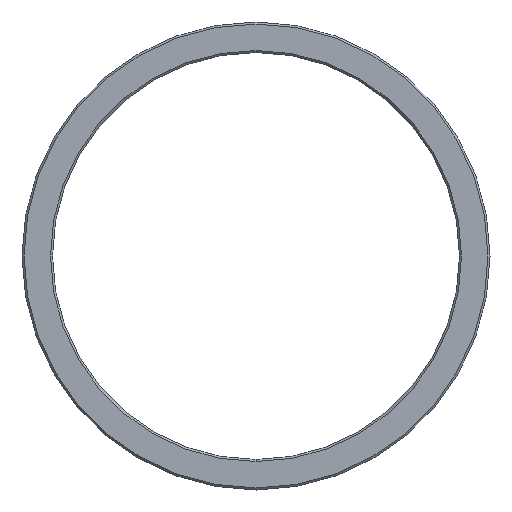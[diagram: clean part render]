
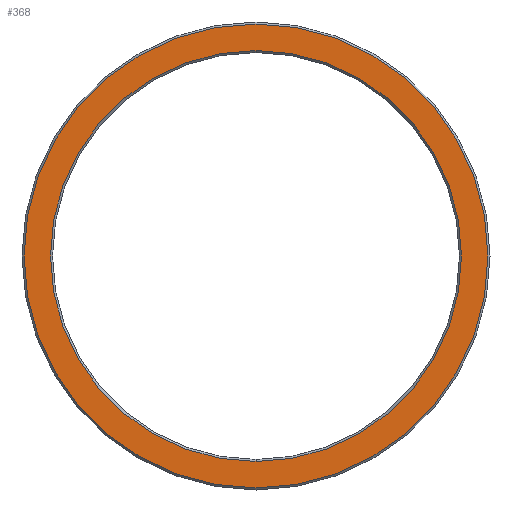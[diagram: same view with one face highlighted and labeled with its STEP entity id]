
A CAD part, left-side view. The second image highlights one B-rep face of the part: STEP entity #368.
In plain terms, the highlighted planar face has unit normal (-1, 0, 0).
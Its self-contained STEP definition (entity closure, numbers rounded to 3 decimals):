
#1 = DIRECTION ( 'NONE',  ( 0., 0., 1. ) ) ;
#22 = CIRCLE ( 'NONE', #45, 20.2 ) ;
#25 = VERTEX_POINT ( 'NONE', #363 ) ;
#38 = ORIENTED_EDGE ( 'NONE', *, *, #247, .T. ) ;
#45 = AXIS2_PLACEMENT_3D ( 'NONE', #237, #384, #73 ) ;
#73 = DIRECTION ( 'NONE',  ( 0., 0., 1. ) ) ;
#112 = AXIS2_PLACEMENT_3D ( 'NONE', #120, #230, #529 ) ;
#119 = CIRCLE ( 'NONE', #141, 20.2 ) ;
#120 = CARTESIAN_POINT ( 'NONE',  ( -29.709, 50., 0. ) ) ;
#141 = AXIS2_PLACEMENT_3D ( 'NONE', #515, #275, #1 ) ;
#158 = CARTESIAN_POINT ( 'NONE',  ( -29.709, 50., -22.8 ) ) ;
#179 = EDGE_CURVE ( 'NONE', #25, #580, #22, .T. ) ;
#216 = EDGE_CURVE ( 'NONE', #589, #538, #439, .T. ) ;
#227 = CARTESIAN_POINT ( 'NONE',  ( -29.709, 70.2, 0. ) ) ;
#230 = DIRECTION ( 'NONE',  ( -1., 0., 0. ) ) ;
#237 = CARTESIAN_POINT ( 'NONE',  ( -29.709, 50., 0. ) ) ;
#240 = AXIS2_PLACEMENT_3D ( 'NONE', #227, #629, #577 ) ;
#247 = EDGE_CURVE ( 'NONE', #538, #589, #341, .T. ) ;
#275 = DIRECTION ( 'NONE',  ( -1., 0., 0. ) ) ;
#293 = EDGE_LOOP ( 'NONE', ( #499, #542 ) ) ;
#334 = CARTESIAN_POINT ( 'NONE',  ( -29.709, 50., 0. ) ) ;
#341 = CIRCLE ( 'NONE', #112, 22.8 ) ;
#351 = FACE_BOUND ( 'NONE', #293, .T. ) ;
#352 = ORIENTED_EDGE ( 'NONE', *, *, #216, .T. ) ;
#363 = CARTESIAN_POINT ( 'NONE',  ( -29.709, 50., 20.2 ) ) ;
#368 = ADVANCED_FACE ( 'NONE', ( #351, #398 ), #523, .F. ) ;
#384 = DIRECTION ( 'NONE',  ( -1., 0., 0. ) ) ;
#393 = AXIS2_PLACEMENT_3D ( 'NONE', #334, #432, #478 ) ;
#398 = FACE_OUTER_BOUND ( 'NONE', #536, .T. ) ;
#432 = DIRECTION ( 'NONE',  ( -1., 0., 0. ) ) ;
#439 = CIRCLE ( 'NONE', #393, 22.8 ) ;
#478 = DIRECTION ( 'NONE',  ( 0., 0., 1. ) ) ;
#499 = ORIENTED_EDGE ( 'NONE', *, *, #179, .F. ) ;
#515 = CARTESIAN_POINT ( 'NONE',  ( -29.709, 50., 0. ) ) ;
#523 = PLANE ( 'NONE',  #240 ) ;
#529 = DIRECTION ( 'NONE',  ( 0., 0., 1. ) ) ;
#532 = EDGE_CURVE ( 'NONE', #580, #25, #119, .T. ) ;
#536 = EDGE_LOOP ( 'NONE', ( #38, #352 ) ) ;
#538 = VERTEX_POINT ( 'NONE', #158 ) ;
#542 = ORIENTED_EDGE ( 'NONE', *, *, #532, .F. ) ;
#577 = DIRECTION ( 'NONE',  ( 0., 0., -1. ) ) ;
#578 = CARTESIAN_POINT ( 'NONE',  ( -29.709, 50., -20.2 ) ) ;
#580 = VERTEX_POINT ( 'NONE', #578 ) ;
#589 = VERTEX_POINT ( 'NONE', #624 ) ;
#624 = CARTESIAN_POINT ( 'NONE',  ( -29.709, 50., 22.8 ) ) ;
#629 = DIRECTION ( 'NONE',  ( 1., 0., 0. ) ) ;
